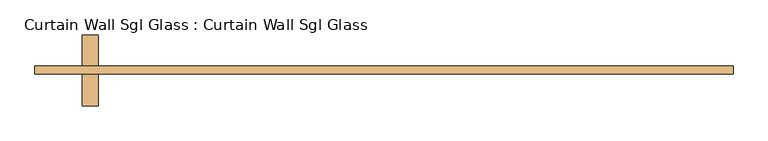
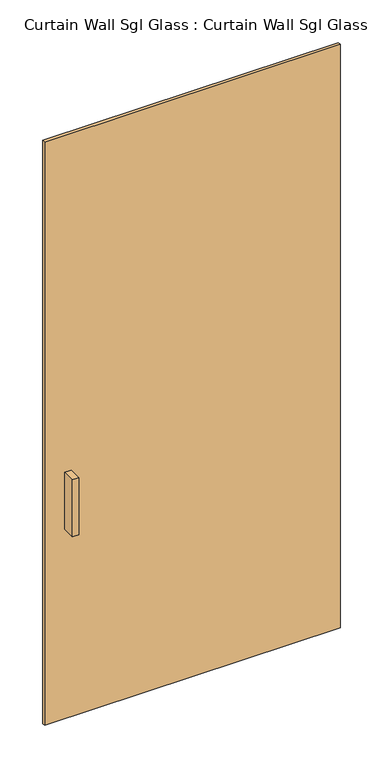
"""IFC4 building model written with IfcOpenShell, lengths in millimetres: door geometry, Curtain Wall Sgl Glass : Curtain Wall Sgl Glass."""

import ifcopenshell
import ifcopenshell.guid

model = None  # the IFC model being written
_history = None  # IfcOwnerHistory: only IFC2X3 demands one
_inside = {}  # id of a spatial element -> (the spatial element, [elements in it])
_under = {}  # id of a project, library or spatial element -> (it, [spatial elements below it])
_declared = {}  # id of a project -> (the project, [libraries it declares])
_typed = {}  # id of a type object -> (the type object, [elements of that type])
_made_of = {}  # id of a material, layer set ... -> (it, [elements and type objects made of it])


def new_model(schema):
    """Start an empty IFC model of exactly this schema.

    Asked for "IFC4X3", IfcOpenShell would pick the latest addendum, in which some entities
    have other attributes; the version numbers below select the first issue.
    IFC2X3 requires an IfcOwnerHistory on every rooted entity: one is made here for all.
    """
    global model, _history
    if schema == "IFC4X3":
        model = ifcopenshell.file(schema_version=(4, 3, 0, 0))
    else:
        model = ifcopenshell.file(schema=schema)
    _inside.clear()
    _under.clear()
    _declared.clear()
    _typed.clear()
    _made_of.clear()
    _history = None
    if model.schema == "IFC2X3":
        org = make("IfcOrganization", Name="unknown")
        user = make(
            "IfcPersonAndOrganization",
            ThePerson=make("IfcPerson", FamilyName="unknown"),
            TheOrganization=org,
        )
        app = make(
            "IfcApplication",
            ApplicationDeveloper=org,
            Version="unknown",
            ApplicationFullName="unknown",
            ApplicationIdentifier="unknown",
        )
        _history = make(
            "IfcOwnerHistory",
            OwningUser=user,
            OwningApplication=app,
            ChangeAction="ADDED",
            CreationDate=0,
        )
    return model


def make(cls, **values):
    """One entity of the class cls with the attributes given. An attribute that is None is left unset."""
    return model.create_entity(
        cls, **{name: value for name, value in values.items() if value is not None}
    )


def rooted(cls, **values):
    """An entity with a GlobalId (a new one), such as an element, a storey or a relation."""
    return make(cls, GlobalId=ifcopenshell.guid.new(), OwnerHistory=_history, **values)


def si_unit(unit_type, name, prefix=None):
    """IfcSIUnit, for example si_unit("LENGTHUNIT", "METRE", prefix="MILLI")."""
    return make("IfcSIUnit", UnitType=unit_type, Prefix=prefix, Name=name)


def assignment(units):
    """IfcUnitAssignment: the units of a project."""
    return None if units is None else make("IfcUnitAssignment", Units=units)


def point(xyz):
    """IfcCartesianPoint."""
    return None if xyz is None else make("IfcCartesianPoint", Coordinates=xyz)


def direction(xyz):
    """IfcDirection."""
    return None if xyz is None else make("IfcDirection", DirectionRatios=xyz)


def frame(location, z_axis=None, x_axis=None):
    """IfcAxis2Placement3D, a coordinate frame: its origin and axes. An axis left out is left unset."""
    return make(
        "IfcAxis2Placement3D",
        Location=point(location),
        Axis=direction(z_axis),
        RefDirection=direction(x_axis),
    )


def origin():
    """The frame at (0, 0, 0) with its axes left unset."""
    return frame((0.0, 0.0, 0.0))


def origin_with_axes():
    """The frame at (0, 0, 0) with the z axis (0, 0, 1) and the x axis (1, 0, 0) written out."""
    return frame((0.0, 0.0, 0.0), z_axis=(0.0, 0.0, 1.0), x_axis=(1.0, 0.0, 0.0))


def place(relative_to, where):
    """IfcLocalPlacement: puts the frame where relative to a parent placement (None: the world)."""
    return make(
        "IfcLocalPlacement", PlacementRelTo=relative_to, RelativePlacement=where
    )


def context(
    kind, dimensions, precision=None, world=None, true_north=None, identifier=None
):
    """IfcGeometricRepresentationContext, for example the 3D "Model" context."""
    return make(
        "IfcGeometricRepresentationContext",
        ContextIdentifier=identifier,
        ContextType=kind,
        CoordinateSpaceDimension=dimensions,
        Precision=precision,
        WorldCoordinateSystem=world,
        TrueNorth=true_north,
    )


def project(units=None, contexts=None):
    """IfcProject with its units and contexts."""
    return rooted(
        "IfcProject",
        Name="project",
        RepresentationContexts=contexts,
        UnitsInContext=assignment(units),
    )


def spatial(cls, under=None, at=None, **own):
    """A site, building, storey or space (cls), placed at a placement, below another one or the project."""
    s = rooted(cls, ObjectPlacement=at, **own)
    if under is not None:
        _under.setdefault(under.id(), (under, []))[1].append(s)
    return s


def polyline(points):
    """IfcPolyline through the points."""
    return make("IfcPolyline", Points=[point(p) for p in points])


def outline(outer, holes=None, kind="AREA"):
    """IfcArbitraryClosedProfileDef: a profile drawn as a closed curve; with holes, ...WithVoids."""
    if holes is None:
        return make("IfcArbitraryClosedProfileDef", ProfileType=kind, OuterCurve=outer)
    return make(
        "IfcArbitraryProfileDefWithVoids",
        ProfileType=kind,
        OuterCurve=outer,
        InnerCurves=holes,
    )


def extrude(swept, where, along, depth):
    """IfcExtrudedAreaSolid: the profile swept, set in the frame where, extruded along a direction by depth."""
    return make(
        "IfcExtrudedAreaSolid",
        SweptArea=swept,
        Position=where,
        ExtrudedDirection=direction(along),
        Depth=depth,
    )


def shape(context_of_items, identifier, shape_type, items):
    """IfcShapeRepresentation: the items that make up one representation, for example the "Body"."""
    return make(
        "IfcShapeRepresentation",
        ContextOfItems=context_of_items,
        RepresentationIdentifier=identifier,
        RepresentationType=shape_type,
        Items=items,
    )


def source(mapping_origin, context_of_items, identifier, shape_type, items):
    """IfcRepresentationMap: a shape defined once, which mapped items show again and again."""
    return make(
        "IfcRepresentationMap",
        MappingOrigin=mapping_origin,
        MappedRepresentation=shape(context_of_items, identifier, shape_type, items),
    )


def transform(
    local_origin,
    x_axis=None,
    y_axis=None,
    z_axis=None,
    scale=None,
    scale2=None,
    scale3=None,
    uniform=True,
):
    """IfcCartesianTransformationOperator3D, or its non-uniform kind. x_axis, y_axis, z_axis: its Axis1, 2, 3."""
    if uniform:
        return make(
            "IfcCartesianTransformationOperator3D",
            Axis1=direction(x_axis),
            Axis2=direction(y_axis),
            LocalOrigin=point(local_origin),
            Scale=scale,
            Axis3=direction(z_axis),
        )
    return make(
        "IfcCartesianTransformationOperator3DnonUniform",
        Axis1=direction(x_axis),
        Axis2=direction(y_axis),
        LocalOrigin=point(local_origin),
        Scale=scale,
        Axis3=direction(z_axis),
        Scale2=scale2,
        Scale3=scale3,
    )


def mapped(mapping_source, mapping_target):
    """IfcMappedItem: shows the shape of a source again, moved by a transform."""
    return make(
        "IfcMappedItem", MappingSource=mapping_source, MappingTarget=mapping_target
    )


def made_of(thing, what):
    """Note that an element or type object is made of a material, layer set ...; save() writes the relation."""
    if what is not None:
        _made_of.setdefault(what.id(), (what, []))[1].append(thing)
    return thing


def element(
    cls,
    number,
    at=None,
    inside=None,
    cuts=None,
    type_object=None,
    material=None,
    context=None,
    identifier="Body",
    shape_type=None,
    held_by="IfcProductDefinitionShape",
    body=None,
    shapes=None,
    **own,
):
    """One element of the class cls, such as IfcWall. Its Tag is "e" and its number.

    at: its placement. inside: the storey or other place that contains it. cuts: it is an
    opening in that element (IfcRelVoidsElement). A single representation is given by context,
    identifier, shape_type and body (its items); several are given by shapes. held_by: the class
    of the entity that holds the representations. save() writes the other relations.
    """
    e = rooted(cls, Tag="e%d" % number, ObjectPlacement=at, **own)
    if body is not None:
        shapes = [shape(context, identifier, shape_type, body)]
    if shapes is not None:
        e.Representation = make(held_by, Representations=shapes)
    if inside is not None:
        _inside.setdefault(inside.id(), (inside, []))[1].append(e)
    if cuts is not None:
        rooted(
            "IfcRelVoidsElement", RelatingBuildingElement=cuts, RelatedOpeningElement=e
        )
    if type_object is not None:
        _typed.setdefault(type_object.id(), (type_object, []))[1].append(e)
    return made_of(e, material)


def aggregate(whole, parts):
    """IfcRelAggregates: a whole, such as a stair, and the parts it consists of."""
    return rooted("IfcRelAggregates", RelatingObject=whole, RelatedObjects=parts)


def save(model, path):
    """Write the relations noted so far, then the file.

    IfcRelAggregates (storeys below a building ...), IfcRelContainedInSpatialStructure (elements
    in a storey), IfcRelDefinesByType, IfcRelAssociatesMaterial and IfcRelDeclares: one each for
    every whole, place, type object, material and project.
    """
    for whole, parts in _under.values():
        aggregate(whole, parts)
    for where, things in _inside.values():
        rooted(
            "IfcRelContainedInSpatialStructure",
            RelatedElements=things,
            RelatingStructure=where,
        )
    for kind, things in _typed.values():
        rooted("IfcRelDefinesByType", RelatedObjects=things, RelatingType=kind)
    for what, things in _made_of.values():
        rooted("IfcRelAssociatesMaterial", RelatedObjects=things, RelatingMaterial=what)
    for by, libraries in _declared.values():
        rooted("IfcRelDeclares", RelatingContext=by, RelatedDefinitions=libraries)
    model.write(path)


def curtain_wall_sgl_glass_curtain_wall_sgl_glass_453d5037(model_context):
    return source(origin(), model_context, "Body", "SweptSolid", [
        extrude(outline(polyline([(-460.375, -12.7), (-485.775, -12.7), (-485.775, 38.1), (-460.375, 38.1), (-460.375, -12.7)])), frame((0.0, 0.0, 762.0), z_axis=(0.0, 0.0, 1.0), x_axis=(1.0, 0.0, 0.0)), (0.0, 0.0, 1.0), 228.6),
        extrude(outline(polyline([(-485.775, 101.6), (-460.375, 101.6), (-460.375, 50.8), (-485.775, 50.8), (-485.775, 101.6)])), frame((0.0, 0.0, 762.0), z_axis=(0.0, 0.0, 1.0), x_axis=(1.0, 0.0, 0.0)), (0.0, 0.0, 1.0), 228.6),
        extrude(outline(polyline([(561.975, 50.8), (561.975, 38.1), (-561.975, 38.1), (-561.975, 50.8), (561.975, 50.8)])), origin_with_axes(), (0.0, 0.0, 1.0), 2343.15),
    ])


if __name__ == "__main__":
    model = new_model("IFC4")
    model_context = context("Model", 3, world=origin())
    ifc_project = project(units=[si_unit("LENGTHUNIT", "METRE", prefix="MILLI")], contexts=[model_context])
    site = spatial("IfcSite", under=ifc_project)
    building = spatial("IfcBuilding", under=site)
    placement = place(None, origin())
    curtain_wall_sgl_glass_curtain_wall_sgl_glass_shape = curtain_wall_sgl_glass_curtain_wall_sgl_glass_453d5037(model_context)
    element("IfcDoor", 1, ObjectType="Curtain Wall Sgl Glass : Curtain Wall Sgl Glass", at=placement, inside=building, context=model_context, shape_type="MappedRepresentation", body=[
        mapped(curtain_wall_sgl_glass_curtain_wall_sgl_glass_shape, transform((0.0, 0.0, 0.0), x_axis=(1.0, 0.0, 0.0), y_axis=(0.0, 1.0, 0.0), z_axis=(0.0, 0.0, 1.0))),
    ])
    save(model, "model.ifc")
